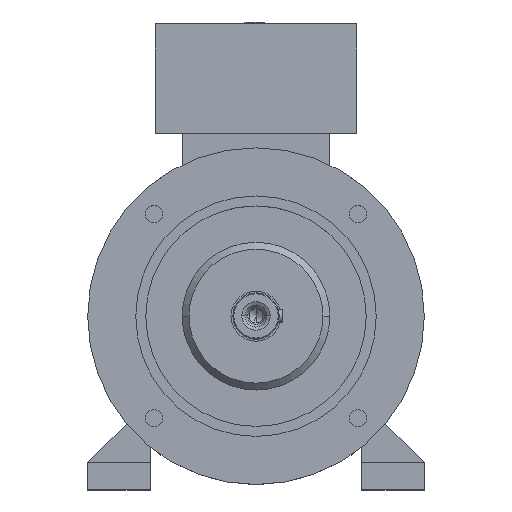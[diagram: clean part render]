
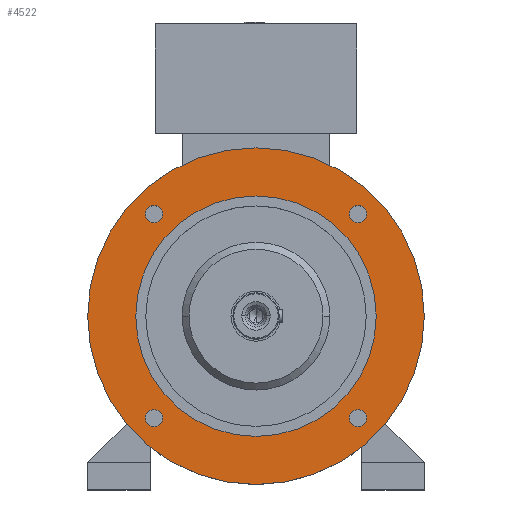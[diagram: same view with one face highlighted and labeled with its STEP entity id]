
A CAD part, top view. The second image highlights one B-rep face of the part: STEP entity #4522.
In plain terms, the highlighted planar face has unit normal (0, 0, 1).
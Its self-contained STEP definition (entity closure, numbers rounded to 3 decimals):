
#102 = CARTESIAN_POINT ( 'NONE',  ( 0., 0., 260.5 ) ) ;
#271 = ORIENTED_EDGE ( 'NONE', *, *, #6880, .T. ) ;
#384 = FACE_BOUND ( 'NONE', #12214, .T. ) ;
#386 = CARTESIAN_POINT ( 'NONE',  ( -175., 0., 260.5 ) ) ;
#661 = ORIENTED_EDGE ( 'NONE', *, *, #6995, .T. ) ;
#695 = CIRCLE ( 'NONE', #14304, 9. ) ;
#801 = DIRECTION ( 'NONE',  ( 1., 0., 0. ) ) ;
#1119 = EDGE_CURVE ( 'NONE', #18145, #24403, #1135, .T. ) ;
#1135 = CIRCLE ( 'NONE', #10885, 9. ) ;
#1218 = ORIENTED_EDGE ( 'NONE', *, *, #9050, .T. ) ;
#1821 = CARTESIAN_POINT ( 'NONE',  ( -115.066, -106.066, 260.5 ) ) ;
#1981 = DIRECTION ( 'NONE',  ( -1., 0., 0. ) ) ;
#2173 = AXIS2_PLACEMENT_3D ( 'NONE', #102, #9716, #1981 ) ;
#2176 = EDGE_CURVE ( 'NONE', #11475, #15906, #22153, .T. ) ;
#2582 = CARTESIAN_POINT ( 'NONE',  ( -106.066, -106.066, 260.5 ) ) ;
#2910 = CARTESIAN_POINT ( 'NONE',  ( -97.066, 106.066, 260.5 ) ) ;
#3242 = DIRECTION ( 'NONE',  ( 0., 0., -1. ) ) ;
#3330 = DIRECTION ( 'NONE',  ( 0., 0., -1. ) ) ;
#3576 = CARTESIAN_POINT ( 'NONE',  ( 97.066, -106.066, 260.5 ) ) ;
#3963 = DIRECTION ( 'NONE',  ( 0., 0., -1. ) ) ;
#4074 = CARTESIAN_POINT ( 'NONE',  ( 115.066, 106.066, 260.5 ) ) ;
#4146 = DIRECTION ( 'NONE',  ( 0., 0., -1. ) ) ;
#4405 = AXIS2_PLACEMENT_3D ( 'NONE', #24971, #17400, #11534 ) ;
#4522 = ADVANCED_FACE ( 'NONE', ( #6162, #10749, #5550, #16840, #384, #15310 ), #9052, .T. ) ;
#5533 = EDGE_CURVE ( 'NONE', #17164, #16894, #13476, .T. ) ;
#5550 = FACE_BOUND ( 'NONE', #18313, .T. ) ;
#5555 = AXIS2_PLACEMENT_3D ( 'NONE', #16083, #4146, #10021 ) ;
#5826 = AXIS2_PLACEMENT_3D ( 'NONE', #7751, #15439, #11449 ) ;
#5854 = DIRECTION ( 'NONE',  ( 1., 0., 0. ) ) ;
#6015 = DIRECTION ( 'NONE',  ( 1., 0., 0. ) ) ;
#6055 = EDGE_CURVE ( 'NONE', #24403, #18145, #695, .T. ) ;
#6162 = FACE_OUTER_BOUND ( 'NONE', #13715, .T. ) ;
#6880 = EDGE_CURVE ( 'NONE', #17151, #16989, #6999, .T. ) ;
#6995 = EDGE_CURVE ( 'NONE', #9359, #19026, #10686, .T. ) ;
#6999 = CIRCLE ( 'NONE', #8455, 9. ) ;
#7086 = AXIS2_PLACEMENT_3D ( 'NONE', #9268, #21051, #22884 ) ;
#7189 = AXIS2_PLACEMENT_3D ( 'NONE', #20446, #16595, #18651 ) ;
#7296 = ORIENTED_EDGE ( 'NONE', *, *, #19814, .T. ) ;
#7493 = AXIS2_PLACEMENT_3D ( 'NONE', #24619, #20833, #22752 ) ;
#7613 = VERTEX_POINT ( 'NONE', #386 ) ;
#7751 = CARTESIAN_POINT ( 'NONE',  ( 0., 0., 260.5 ) ) ;
#7863 = ORIENTED_EDGE ( 'NONE', *, *, #2176, .T. ) ;
#7875 = CARTESIAN_POINT ( 'NONE',  ( 106.066, 106.066, 260.5 ) ) ;
#8289 = ORIENTED_EDGE ( 'NONE', *, *, #20827, .T. ) ;
#8455 = AXIS2_PLACEMENT_3D ( 'NONE', #2582, #24130, #801 ) ;
#9050 = EDGE_CURVE ( 'NONE', #15906, #11475, #10893, .T. ) ;
#9052 = PLANE ( 'NONE',  #7493 ) ;
#9268 = CARTESIAN_POINT ( 'NONE',  ( 0., 0., 260.5 ) ) ;
#9359 = VERTEX_POINT ( 'NONE', #16298 ) ;
#9484 = AXIS2_PLACEMENT_3D ( 'NONE', #17528, #3963, #5854 ) ;
#9716 = DIRECTION ( 'NONE',  ( 0., 0., 1. ) ) ;
#9845 = EDGE_CURVE ( 'NONE', #16989, #17151, #16640, .T. ) ;
#10021 = DIRECTION ( 'NONE',  ( 1., 0., 0. ) ) ;
#10532 = CIRCLE ( 'NONE', #9484, 9. ) ;
#10686 = CIRCLE ( 'NONE', #11550, 9. ) ;
#10749 = FACE_BOUND ( 'NONE', #18325, .T. ) ;
#10885 = AXIS2_PLACEMENT_3D ( 'NONE', #7875, #17693, #6015 ) ;
#10893 = CIRCLE ( 'NONE', #4405, 125. ) ;
#11303 = ORIENTED_EDGE ( 'NONE', *, *, #5533, .T. ) ;
#11449 = DIRECTION ( 'NONE',  ( -1., 0., 0. ) ) ;
#11475 = VERTEX_POINT ( 'NONE', #18468 ) ;
#11534 = DIRECTION ( 'NONE',  ( -1., 0., 0. ) ) ;
#11550 = AXIS2_PLACEMENT_3D ( 'NONE', #22761, #3242, #24380 ) ;
#12214 = EDGE_LOOP ( 'NONE', ( #8289, #661 ) ) ;
#12279 = CARTESIAN_POINT ( 'NONE',  ( 115.066, -106.066, 260.5 ) ) ;
#13065 = CARTESIAN_POINT ( 'NONE',  ( 175., 0., 260.5 ) ) ;
#13155 = CARTESIAN_POINT ( 'NONE',  ( 106.066, -106.066, 260.5 ) ) ;
#13222 = VERTEX_POINT ( 'NONE', #13065 ) ;
#13476 = CIRCLE ( 'NONE', #20451, 9. ) ;
#13593 = CARTESIAN_POINT ( 'NONE',  ( 97.066, 106.066, 260.5 ) ) ;
#13715 = EDGE_LOOP ( 'NONE', ( #22116, #19431 ) ) ;
#14206 = CIRCLE ( 'NONE', #2173, 175. ) ;
#14304 = AXIS2_PLACEMENT_3D ( 'NONE', #20759, #3330, #24882 ) ;
#14871 = CIRCLE ( 'NONE', #7086, 175. ) ;
#15189 = DIRECTION ( 'NONE',  ( 0., 0., -1. ) ) ;
#15310 = FACE_BOUND ( 'NONE', #15913, .T. ) ;
#15439 = DIRECTION ( 'NONE',  ( 0., 0., -1. ) ) ;
#15906 = VERTEX_POINT ( 'NONE', #17236 ) ;
#15913 = EDGE_LOOP ( 'NONE', ( #271, #17039 ) ) ;
#16083 = CARTESIAN_POINT ( 'NONE',  ( -106.066, -106.066, 260.5 ) ) ;
#16192 = CARTESIAN_POINT ( 'NONE',  ( -97.066, -106.066, 260.5 ) ) ;
#16295 = CIRCLE ( 'NONE', #7189, 9. ) ;
#16298 = CARTESIAN_POINT ( 'NONE',  ( -115.066, 106.066, 260.5 ) ) ;
#16595 = DIRECTION ( 'NONE',  ( 0., 0., -1. ) ) ;
#16640 = CIRCLE ( 'NONE', #5555, 9. ) ;
#16840 = FACE_BOUND ( 'NONE', #18306, .T. ) ;
#16894 = VERTEX_POINT ( 'NONE', #3576 ) ;
#16989 = VERTEX_POINT ( 'NONE', #1821 ) ;
#17039 = ORIENTED_EDGE ( 'NONE', *, *, #9845, .T. ) ;
#17042 = EDGE_CURVE ( 'NONE', #7613, #13222, #14206, .T. ) ;
#17083 = DIRECTION ( 'NONE',  ( 1., 0., 0. ) ) ;
#17151 = VERTEX_POINT ( 'NONE', #16192 ) ;
#17164 = VERTEX_POINT ( 'NONE', #12279 ) ;
#17236 = CARTESIAN_POINT ( 'NONE',  ( 125., 0., 260.5 ) ) ;
#17400 = DIRECTION ( 'NONE',  ( 0., 0., -1. ) ) ;
#17528 = CARTESIAN_POINT ( 'NONE',  ( 106.066, -106.066, 260.5 ) ) ;
#17693 = DIRECTION ( 'NONE',  ( 0., 0., -1. ) ) ;
#17783 = ORIENTED_EDGE ( 'NONE', *, *, #6055, .T. ) ;
#18145 = VERTEX_POINT ( 'NONE', #4074 ) ;
#18306 = EDGE_LOOP ( 'NONE', ( #23029, #17783 ) ) ;
#18313 = EDGE_LOOP ( 'NONE', ( #11303, #7296 ) ) ;
#18325 = EDGE_LOOP ( 'NONE', ( #7863, #1218 ) ) ;
#18468 = CARTESIAN_POINT ( 'NONE',  ( -125., 0., 260.5 ) ) ;
#18651 = DIRECTION ( 'NONE',  ( 1., 0., 0. ) ) ;
#18751 = EDGE_CURVE ( 'NONE', #13222, #7613, #14871, .T. ) ;
#19026 = VERTEX_POINT ( 'NONE', #2910 ) ;
#19431 = ORIENTED_EDGE ( 'NONE', *, *, #18751, .T. ) ;
#19814 = EDGE_CURVE ( 'NONE', #16894, #17164, #10532, .T. ) ;
#20446 = CARTESIAN_POINT ( 'NONE',  ( -106.066, 106.066, 260.5 ) ) ;
#20451 = AXIS2_PLACEMENT_3D ( 'NONE', #13155, #15189, #17083 ) ;
#20759 = CARTESIAN_POINT ( 'NONE',  ( 106.066, 106.066, 260.5 ) ) ;
#20827 = EDGE_CURVE ( 'NONE', #19026, #9359, #16295, .T. ) ;
#20833 = DIRECTION ( 'NONE',  ( 0., 0., 1. ) ) ;
#21051 = DIRECTION ( 'NONE',  ( 0., 0., 1. ) ) ;
#22116 = ORIENTED_EDGE ( 'NONE', *, *, #17042, .T. ) ;
#22153 = CIRCLE ( 'NONE', #5826, 125. ) ;
#22752 = DIRECTION ( 'NONE',  ( 1., 0., 0. ) ) ;
#22761 = CARTESIAN_POINT ( 'NONE',  ( -106.066, 106.066, 260.5 ) ) ;
#22884 = DIRECTION ( 'NONE',  ( -1., 0., 0. ) ) ;
#23029 = ORIENTED_EDGE ( 'NONE', *, *, #1119, .T. ) ;
#24130 = DIRECTION ( 'NONE',  ( 0., 0., -1. ) ) ;
#24380 = DIRECTION ( 'NONE',  ( 1., 0., 0. ) ) ;
#24403 = VERTEX_POINT ( 'NONE', #13593 ) ;
#24619 = CARTESIAN_POINT ( 'NONE',  ( 0., 175., 260.5 ) ) ;
#24882 = DIRECTION ( 'NONE',  ( 1., 0., 0. ) ) ;
#24971 = CARTESIAN_POINT ( 'NONE',  ( 0., 0., 260.5 ) ) ;
